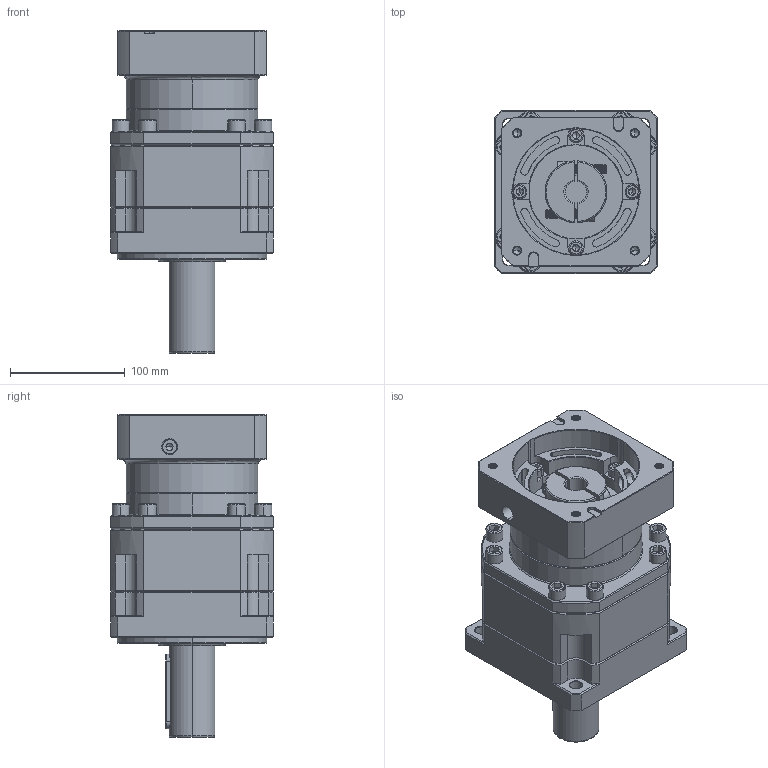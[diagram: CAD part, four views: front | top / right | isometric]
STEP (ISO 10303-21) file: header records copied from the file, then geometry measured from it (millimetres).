
FILE_DESCRIPTION (( 'STEP AP214' ), '1' );
FILE_NAME ('ZB142A-D40-L2-P2-19-110-145-M8.step', '2023-09-02T02:49:14', ( '' ), ( '' ), 'SwSTEP 2.0', 'SolidWorks 2016', '' );
FILE_SCHEMA (( 'AUTOMOTIVE_DESIGN' ));
Length unit declared in the file: millimetre
Products named in the file (1): ZB142A-D40-L2-P2-19-110-145-M8
Bounding box: 142 x 142 x 281.2 mm (x, y, z)
Volume: 2954898.4 mm3; surface area: 255506.8 mm2
Topology: 6 solids, 6 shells, 2600 faces, 6838 edges, 4358 vertices
Faces by surface type: plane 1231, cylinder 517, bspline 407, cone 388, torus 57
Entity records: 139175 total; most frequent: CARTESIAN_POINT 49751, ORIENTED_EDGE 13568, DIRECTION 11123, EDGE_CURVE 6784, VERTEX_POINT 4358, LINE 4287, VECTOR 4287, AXIS2_PLACEMENT_3D 3418
